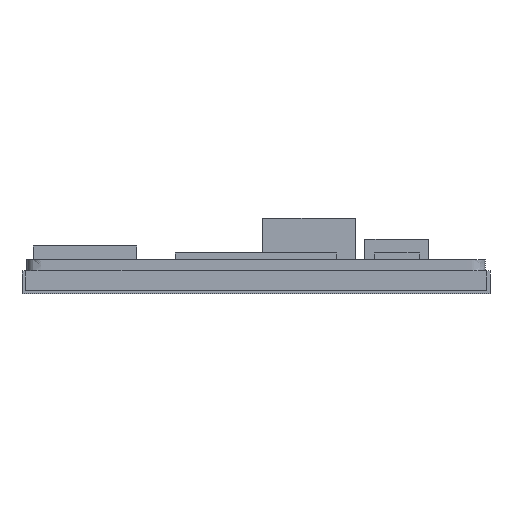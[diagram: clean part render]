
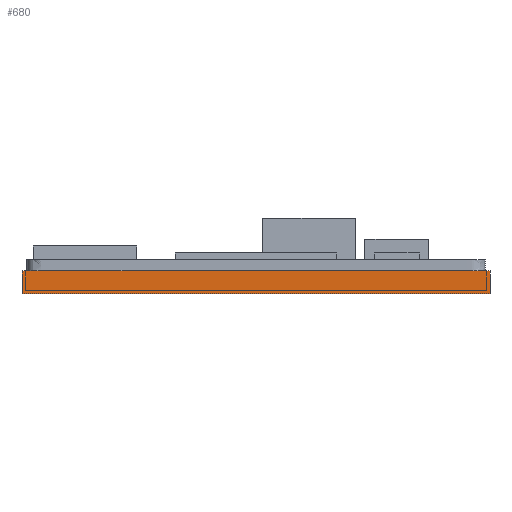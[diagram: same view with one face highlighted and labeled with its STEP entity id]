
A CAD part, front view. The second image highlights one B-rep face of the part: STEP entity #680.
In plain terms, the highlighted planar face has unit normal (0, -1, 0).
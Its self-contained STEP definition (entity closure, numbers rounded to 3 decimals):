
#433=FACE_OUTER_BOUND('',#941,.T.);
#515=LINE('',#3039,#595);
#516=LINE('',#3040,#596);
#595=VECTOR('',#2203,1.);
#596=VECTOR('',#2204,1.);
#680=ADVANCED_FACE('',(#433),#763,.T.);
#763=PLANE('',#1967);
#941=EDGE_LOOP('',(#1293,#1294,#1295,#1296));
#1293=ORIENTED_EDGE('',*,*,#1699,.F.);
#1294=ORIENTED_EDGE('',*,*,#1731,.F.);
#1295=ORIENTED_EDGE('',*,*,#1723,.T.);
#1296=ORIENTED_EDGE('',*,*,#1732,.T.);
#1505=VERTEX_POINT('',#2928);
#1506=VERTEX_POINT('',#2929);
#1529=VERTEX_POINT('',#3002);
#1530=VERTEX_POINT('',#3003);
#1699=EDGE_CURVE('',#1505,#1506,#1859,.T.);
#1723=EDGE_CURVE('',#1529,#1530,#1867,.T.);
#1731=EDGE_CURVE('',#1529,#1505,#515,.T.);
#1732=EDGE_CURVE('',#1530,#1506,#516,.T.);
#1859=B_SPLINE_CURVE_WITH_KNOTS('',3,(#2924,#2925,#2926,#2927),
 .UNSPECIFIED.,.F.,.F.,(4,4),(0.,1.),.UNSPECIFIED.);
#1867=B_SPLINE_CURVE_WITH_KNOTS('',3,(#2998,#2999,#3000,#3001),
 .UNSPECIFIED.,.F.,.F.,(4,4),(0.,1.),.UNSPECIFIED.);
#1967=AXIS2_PLACEMENT_3D('',#3041,#2205,#2206);
#2203=DIRECTION('',(0.,0.,-1.));
#2204=DIRECTION('',(0.,0.,-1.));
#2205=DIRECTION('',(0.,-1.,0.));
#2206=DIRECTION('',(1.,0.,0.));
#2924=CARTESIAN_POINT('',(223.444,-88.03,-4.9));
#2925=CARTESIAN_POINT('',(200.911,-88.03,-4.9));
#2926=CARTESIAN_POINT('',(178.378,-88.03,-4.9));
#2927=CARTESIAN_POINT('',(155.844,-88.03,-4.9));
#2928=CARTESIAN_POINT('',(223.444,-88.03,-4.9));
#2929=CARTESIAN_POINT('',(155.844,-88.03,-4.9));
#2998=CARTESIAN_POINT('',(223.444,-88.03,-1.6));
#2999=CARTESIAN_POINT('',(200.911,-88.03,-1.6));
#3000=CARTESIAN_POINT('',(178.378,-88.03,-1.6));
#3001=CARTESIAN_POINT('',(155.844,-88.03,-1.6));
#3002=CARTESIAN_POINT('',(223.444,-88.03,-1.6));
#3003=CARTESIAN_POINT('',(155.844,-88.03,-1.6));
#3039=CARTESIAN_POINT('',(223.444,-88.03,-1.6));
#3040=CARTESIAN_POINT('',(155.844,-88.03,-1.6));
#3041=CARTESIAN_POINT('',(223.444,-88.03,-1.6));
